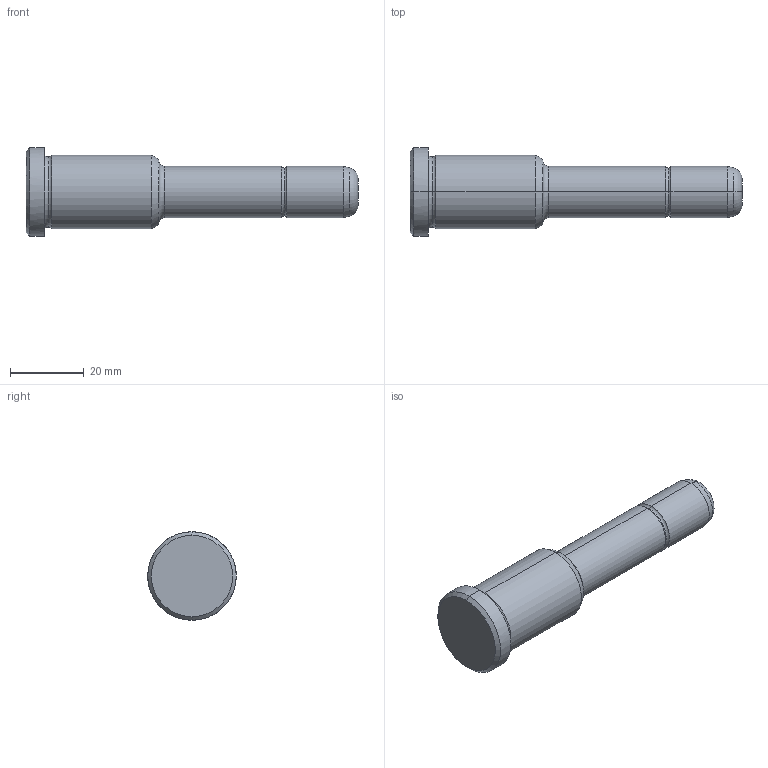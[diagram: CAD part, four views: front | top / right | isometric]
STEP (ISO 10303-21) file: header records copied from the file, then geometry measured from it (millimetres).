
FILE_DESCRIPTION(('CATIA V5 STEP Exchange'),'2;1');
FILE_NAME('C:\Users\Utente\Desktop\IO LAVORO\3D X SITO CF\X SITO\PLASTICA\351\351-14X36X90.stp','2021-08-18T10:46:02+00:00',('none'),('none'),'CATIA Version 5 Release 20 GA (IN-10)','CATIA V5 STEP AP203','none');
FILE_SCHEMA(('CONFIG_CONTROL_DESIGN'));
Length unit declared in the file: millimetre
Products named in the file (1): 351-14X36X90
Bounding box: 90 x 24 x 24 mm (x, y, z)
Volume: 20037.2 mm3; surface area: 5426.1 mm2
Topology: 1 solids, 1 shells, 30 faces, 86 edges, 60 vertices
Faces by surface type: torus 12, cylinder 8, cone 6, plane 4
Entity records: 1112 total; most frequent: CARTESIAN_POINT 289, ORIENTED_EDGE 172, DIRECTION 138, AXIS2_PLACEMENT_3D 95, EDGE_CURVE 86, CIRCLE 64, VERTEX_POINT 60, EDGE_LOOP 32
